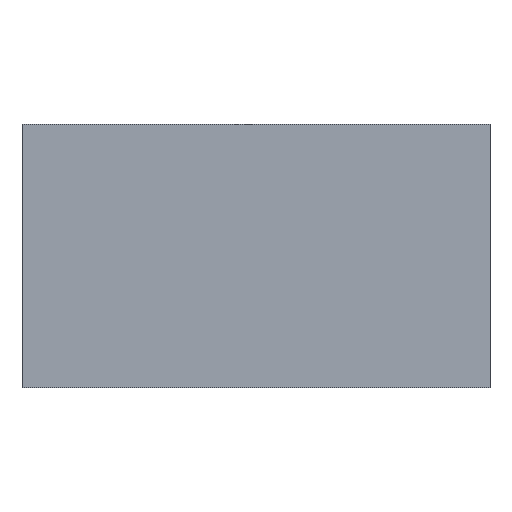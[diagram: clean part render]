
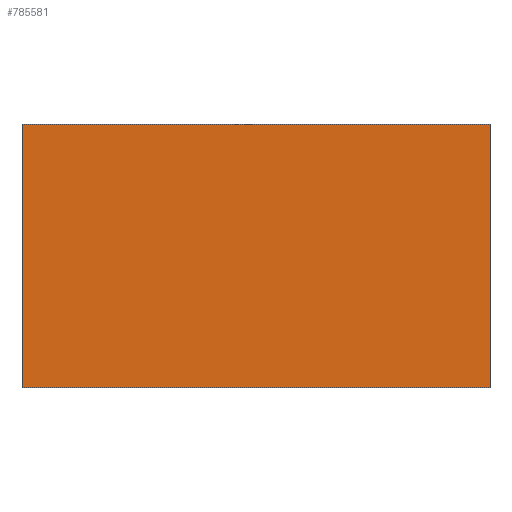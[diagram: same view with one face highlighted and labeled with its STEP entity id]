
A CAD part, top view. The second image highlights one B-rep face of the part: STEP entity #785581.
In plain terms, the highlighted planar face has unit normal (0, 0, 1).
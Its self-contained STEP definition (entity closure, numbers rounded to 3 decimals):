
#784667 = PLANE('',#784668);
#784668 = AXIS2_PLACEMENT_3D('',#784669,#784670,#784671);
#784669 = CARTESIAN_POINT('',(-32.,-21.,-14.));
#784670 = DIRECTION('',(1.,0.,0.));
#784671 = DIRECTION('',(0.,0.,1.));
#784693 = PLANE('',#784694);
#784694 = AXIS2_PLACEMENT_3D('',#784695,#784696,#784697);
#784695 = CARTESIAN_POINT('',(-32.,-21.,-14.));
#784696 = DIRECTION('',(0.,1.,0.));
#784697 = DIRECTION('',(0.,0.,1.));
#784719 = PLANE('',#784720);
#784720 = AXIS2_PLACEMENT_3D('',#784721,#784722,#784723);
#784721 = CARTESIAN_POINT('',(32.,-21.,-14.));
#784722 = DIRECTION('',(1.,0.,0.));
#784723 = DIRECTION('',(0.,0.,1.));
#784743 = PLANE('',#784744);
#784744 = AXIS2_PLACEMENT_3D('',#784745,#784746,#784747);
#784745 = CARTESIAN_POINT('',(-32.,15.,-14.));
#784746 = DIRECTION('',(0.,1.,0.));
#784747 = DIRECTION('',(0.,0.,1.));
#784988 = VERTEX_POINT('',#784989);
#784989 = CARTESIAN_POINT('',(-32.,-21.,-10.4));
#785012 = VERTEX_POINT('',#785013);
#785013 = CARTESIAN_POINT('',(-32.,15.,-10.4));
#785034 = EDGE_CURVE('',#784988,#785012,#785035,.T.);
#785035 = SURFACE_CURVE('',#785036,(#785040,#785046),.PCURVE_S1.);
#785036 = LINE('',#785037,#785038);
#785037 = CARTESIAN_POINT('',(-32.,-42.7,-10.4));
#785038 = VECTOR('',#785039,1.);
#785039 = DIRECTION('',(0.,1.,0.));
#785040 = PCURVE('',#784667,#785041);
#785041 = DEFINITIONAL_REPRESENTATION('',(#785042),#785045);
#785042 = B_SPLINE_CURVE_WITH_KNOTS('',1,(#785043,#785044),
  .UNSPECIFIED.,.F.,.F.,(2,2),(21.7,57.7),.PIECEWISE_BEZIER_KNOTS.);
#785043 = CARTESIAN_POINT('',(3.6,0.));
#785044 = CARTESIAN_POINT('',(3.6,-36.));
#785045 = ( GEOMETRIC_REPRESENTATION_CONTEXT(2) 
PARAMETRIC_REPRESENTATION_CONTEXT() REPRESENTATION_CONTEXT('2D SPACE',''
  ) );
#785046 = PCURVE('',#785047,#785052);
#785047 = PLANE('',#785048);
#785048 = AXIS2_PLACEMENT_3D('',#785049,#785050,#785051);
#785049 = CARTESIAN_POINT('',(-40.4,-64.4,-10.4));
#785050 = DIRECTION('',(0.,0.,1.));
#785051 = DIRECTION('',(1.,0.,-0.));
#785052 = DEFINITIONAL_REPRESENTATION('',(#785053),#785056);
#785053 = B_SPLINE_CURVE_WITH_KNOTS('',1,(#785054,#785055),
  .UNSPECIFIED.,.F.,.F.,(2,2),(21.7,57.7),.PIECEWISE_BEZIER_KNOTS.);
#785054 = CARTESIAN_POINT('',(8.4,43.4));
#785055 = CARTESIAN_POINT('',(8.4,79.4));
#785056 = ( GEOMETRIC_REPRESENTATION_CONTEXT(2) 
PARAMETRIC_REPRESENTATION_CONTEXT() REPRESENTATION_CONTEXT('2D SPACE',''
  ) );
#785062 = VERTEX_POINT('',#785063);
#785063 = CARTESIAN_POINT('',(32.,15.,-10.4));
#785086 = EDGE_CURVE('',#785062,#785012,#785087,.T.);
#785087 = SURFACE_CURVE('',#785088,(#785092,#785098),.PCURVE_S1.);
#785088 = LINE('',#785089,#785090);
#785089 = CARTESIAN_POINT('',(-36.2,15.,-10.4));
#785090 = VECTOR('',#785091,1.);
#785091 = DIRECTION('',(-1.,0.,0.));
#785092 = PCURVE('',#784743,#785093);
#785093 = DEFINITIONAL_REPRESENTATION('',(#785094),#785097);
#785094 = B_SPLINE_CURVE_WITH_KNOTS('',1,(#785095,#785096),
  .UNSPECIFIED.,.F.,.F.,(2,2),(-68.2,-4.2),.PIECEWISE_BEZIER_KNOTS.);
#785095 = CARTESIAN_POINT('',(3.6,64.));
#785096 = CARTESIAN_POINT('',(3.6,0.));
#785097 = ( GEOMETRIC_REPRESENTATION_CONTEXT(2) 
PARAMETRIC_REPRESENTATION_CONTEXT() REPRESENTATION_CONTEXT('2D SPACE',''
  ) );
#785098 = PCURVE('',#785047,#785099);
#785099 = DEFINITIONAL_REPRESENTATION('',(#785100),#785103);
#785100 = B_SPLINE_CURVE_WITH_KNOTS('',1,(#785101,#785102),
  .UNSPECIFIED.,.F.,.F.,(2,2),(-68.2,-4.2),.PIECEWISE_BEZIER_KNOTS.);
#785101 = CARTESIAN_POINT('',(72.4,79.4));
#785102 = CARTESIAN_POINT('',(8.4,79.4));
#785103 = ( GEOMETRIC_REPRESENTATION_CONTEXT(2) 
PARAMETRIC_REPRESENTATION_CONTEXT() REPRESENTATION_CONTEXT('2D SPACE',''
  ) );
#785109 = VERTEX_POINT('',#785110);
#785110 = CARTESIAN_POINT('',(32.,-21.,-10.4));
#785133 = EDGE_CURVE('',#785109,#785062,#785134,.T.);
#785134 = SURFACE_CURVE('',#785135,(#785139,#785145),.PCURVE_S1.);
#785135 = LINE('',#785136,#785137);
#785136 = CARTESIAN_POINT('',(32.,-42.7,-10.4));
#785137 = VECTOR('',#785138,1.);
#785138 = DIRECTION('',(0.,1.,0.));
#785139 = PCURVE('',#784719,#785140);
#785140 = DEFINITIONAL_REPRESENTATION('',(#785141),#785144);
#785141 = B_SPLINE_CURVE_WITH_KNOTS('',1,(#785142,#785143),
  .UNSPECIFIED.,.F.,.F.,(2,2),(21.7,57.7),.PIECEWISE_BEZIER_KNOTS.);
#785142 = CARTESIAN_POINT('',(3.6,0.));
#785143 = CARTESIAN_POINT('',(3.6,-36.));
#785144 = ( GEOMETRIC_REPRESENTATION_CONTEXT(2) 
PARAMETRIC_REPRESENTATION_CONTEXT() REPRESENTATION_CONTEXT('2D SPACE',''
  ) );
#785145 = PCURVE('',#785047,#785146);
#785146 = DEFINITIONAL_REPRESENTATION('',(#785147),#785150);
#785147 = B_SPLINE_CURVE_WITH_KNOTS('',1,(#785148,#785149),
  .UNSPECIFIED.,.F.,.F.,(2,2),(21.7,57.7),.PIECEWISE_BEZIER_KNOTS.);
#785148 = CARTESIAN_POINT('',(72.4,43.4));
#785149 = CARTESIAN_POINT('',(72.4,79.4));
#785150 = ( GEOMETRIC_REPRESENTATION_CONTEXT(2) 
PARAMETRIC_REPRESENTATION_CONTEXT() REPRESENTATION_CONTEXT('2D SPACE',''
  ) );
#785158 = EDGE_CURVE('',#785109,#784988,#785159,.T.);
#785159 = SURFACE_CURVE('',#785160,(#785164,#785170),.PCURVE_S1.);
#785160 = LINE('',#785161,#785162);
#785161 = CARTESIAN_POINT('',(-36.2,-21.,-10.4));
#785162 = VECTOR('',#785163,1.);
#785163 = DIRECTION('',(-1.,0.,0.));
#785164 = PCURVE('',#784693,#785165);
#785165 = DEFINITIONAL_REPRESENTATION('',(#785166),#785169);
#785166 = B_SPLINE_CURVE_WITH_KNOTS('',1,(#785167,#785168),
  .UNSPECIFIED.,.F.,.F.,(2,2),(-68.2,-4.2),.PIECEWISE_BEZIER_KNOTS.);
#785167 = CARTESIAN_POINT('',(3.6,64.));
#785168 = CARTESIAN_POINT('',(3.6,0.));
#785169 = ( GEOMETRIC_REPRESENTATION_CONTEXT(2) 
PARAMETRIC_REPRESENTATION_CONTEXT() REPRESENTATION_CONTEXT('2D SPACE',''
  ) );
#785170 = PCURVE('',#785047,#785171);
#785171 = DEFINITIONAL_REPRESENTATION('',(#785172),#785175);
#785172 = B_SPLINE_CURVE_WITH_KNOTS('',1,(#785173,#785174),
  .UNSPECIFIED.,.F.,.F.,(2,2),(-68.2,-4.2),.PIECEWISE_BEZIER_KNOTS.);
#785173 = CARTESIAN_POINT('',(72.4,43.4));
#785174 = CARTESIAN_POINT('',(8.4,43.4));
#785175 = ( GEOMETRIC_REPRESENTATION_CONTEXT(2) 
PARAMETRIC_REPRESENTATION_CONTEXT() REPRESENTATION_CONTEXT('2D SPACE',''
  ) );
#785581 = ADVANCED_FACE('',(#785582),#785047,.T.);
#785582 = FACE_BOUND('',#785583,.T.);
#785583 = EDGE_LOOP('',(#785584,#785585,#785586,#785587));
#785584 = ORIENTED_EDGE('',*,*,#785034,.F.);
#785585 = ORIENTED_EDGE('',*,*,#785158,.F.);
#785586 = ORIENTED_EDGE('',*,*,#785133,.T.);
#785587 = ORIENTED_EDGE('',*,*,#785086,.T.);
